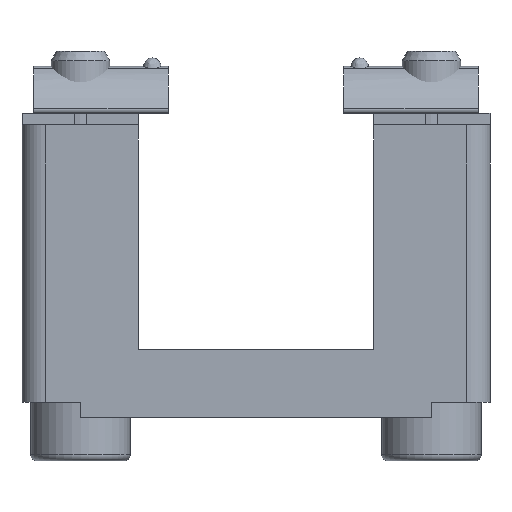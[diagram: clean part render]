
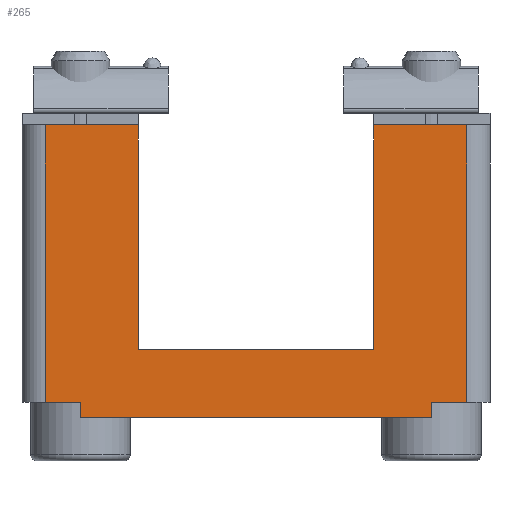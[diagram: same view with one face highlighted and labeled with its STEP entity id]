
A CAD part, front view. The second image highlights one B-rep face of the part: STEP entity #265.
In plain terms, the highlighted planar face has unit normal (0, -1, 0).
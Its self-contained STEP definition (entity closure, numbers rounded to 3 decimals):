
#265=ADVANCED_FACE('',(#493),#494,.T.);
#493=FACE_OUTER_BOUND('',#752,.T.);
#494=PLANE('',#753);
#752=EDGE_LOOP('',(#1234,#1235,#1236,#1237,#1238,#1239,#1240,#1241,#1242,#1243,#1244,#1245));
#753=AXIS2_PLACEMENT_3D('',#1246,#1247,#1248);
#1234=ORIENTED_EDGE('',*,*,#1550,.T.);
#1235=ORIENTED_EDGE('',*,*,#1490,.T.);
#1236=ORIENTED_EDGE('',*,*,#1602,.F.);
#1237=ORIENTED_EDGE('',*,*,#1610,.F.);
#1238=ORIENTED_EDGE('',*,*,#1616,.T.);
#1239=ORIENTED_EDGE('',*,*,#1584,.F.);
#1240=ORIENTED_EDGE('',*,*,#1595,.F.);
#1241=ORIENTED_EDGE('',*,*,#1618,.T.);
#1242=ORIENTED_EDGE('',*,*,#1589,.F.);
#1243=ORIENTED_EDGE('',*,*,#1538,.T.);
#1244=ORIENTED_EDGE('',*,*,#1612,.T.);
#1245=ORIENTED_EDGE('',*,*,#1527,.T.);
#1246=CARTESIAN_POINT('',(-20.0,-6.0,0.0));
#1247=DIRECTION('',(0.0,-1.0,0.0));
#1248=DIRECTION('',(0.0,0.0,-1.0));
#1490=EDGE_CURVE('',#1750,#1754,#1756,.T.);
#1527=EDGE_CURVE('',#1820,#1818,#1821,.T.);
#1538=EDGE_CURVE('',#1838,#1836,#1839,.T.);
#1550=EDGE_CURVE('',#1818,#1750,#1857,.T.);
#1584=EDGE_CURVE('',#1903,#1899,#1905,.T.);
#1589=EDGE_CURVE('',#1838,#1911,#1912,.T.);
#1595=EDGE_CURVE('',#1918,#1903,#1920,.T.);
#1602=EDGE_CURVE('',#1929,#1754,#1930,.T.);
#1610=EDGE_CURVE('',#1940,#1929,#1942,.T.);
#1612=EDGE_CURVE('',#1836,#1820,#1944,.T.);
#1616=EDGE_CURVE('',#1940,#1899,#1948,.T.);
#1618=EDGE_CURVE('',#1918,#1911,#1950,.T.);
#1750=VERTEX_POINT('',#2204);
#1754=VERTEX_POINT('',#2209);
#1756=LINE('',#2211,#2212);
#1818=VERTEX_POINT('',#2300);
#1820=VERTEX_POINT('',#2303);
#1821=LINE('',#2304,#2305);
#1836=VERTEX_POINT('',#2326);
#1838=VERTEX_POINT('',#2329);
#1839=LINE('',#2330,#2331);
#1857=LINE('',#2358,#2359);
#1899=VERTEX_POINT('',#2418);
#1903=VERTEX_POINT('',#2424);
#1905=LINE('',#2427,#2428);
#1911=VERTEX_POINT('',#2436);
#1912=LINE('',#2437,#2438);
#1918=VERTEX_POINT('',#2444);
#1920=LINE('',#2446,#2447);
#1929=VERTEX_POINT('',#2459);
#1930=LINE('',#2460,#2461);
#1940=VERTEX_POINT('',#2473);
#1942=LINE('',#2476,#2477);
#1944=LINE('',#2479,#2480);
#1948=LINE('',#2484,#2485);
#1950=LINE('',#2487,#2488);
#2204=CARTESIAN_POINT('',(-18.0,-6.0,25.0));
#2209=CARTESIAN_POINT('',(-18.0,-6.0,1.3));
#2211=CARTESIAN_POINT('',(-18.0,-6.0,1.3));
#2212=VECTOR('',#2645,1.0);
#2300=CARTESIAN_POINT('',(-10.05,-6.0,25.0));
#2303=CARTESIAN_POINT('',(-10.05,-6.0,5.8));
#2304=CARTESIAN_POINT('',(-10.05,-6.0,26.0));
#2305=VECTOR('',#2682,1.0);
#2326=CARTESIAN_POINT('',(10.05,-6.0,5.8));
#2329=CARTESIAN_POINT('',(10.05,-6.0,25.0));
#2330=CARTESIAN_POINT('',(10.05,-6.0,5.8));
#2331=VECTOR('',#2693,1.0);
#2358=CARTESIAN_POINT('',(-20.0,-6.0,25.0));
#2359=VECTOR('',#2703,1.0);
#2418=CARTESIAN_POINT('',(15.0,-6.0,0.0));
#2424=CARTESIAN_POINT('',(15.0,-6.0,1.3));
#2427=CARTESIAN_POINT('',(15.0,-6.0,0.0));
#2428=VECTOR('',#2736,1.0);
#2436=CARTESIAN_POINT('',(18.0,-6.0,25.0));
#2437=CARTESIAN_POINT('',(-20.0,-6.0,25.0));
#2438=VECTOR('',#2739,1.0);
#2444=CARTESIAN_POINT('',(18.0,-6.0,1.3));
#2446=CARTESIAN_POINT('',(-20.0,-6.0,1.3));
#2447=VECTOR('',#2752,1.0);
#2459=CARTESIAN_POINT('',(-15.0,-6.0,1.3));
#2460=CARTESIAN_POINT('',(-20.0,-6.0,1.3));
#2461=VECTOR('',#2759,1.0);
#2473=CARTESIAN_POINT('',(-15.0,-6.0,0.0));
#2476=CARTESIAN_POINT('',(-15.0,-6.0,0.0));
#2477=VECTOR('',#2772,1.0);
#2479=CARTESIAN_POINT('',(-10.05,-6.0,5.8));
#2480=VECTOR('',#2773,1.0);
#2484=CARTESIAN_POINT('',(-20.0,-6.0,0.0));
#2485=VECTOR('',#2780,1.0);
#2487=CARTESIAN_POINT('',(18.0,-6.0,25.0));
#2488=VECTOR('',#2781,1.0);
#2645=DIRECTION('',(0.0,0.0,-1.0));
#2682=DIRECTION('',(0.0,0.0,1.0));
#2693=DIRECTION('',(0.0,0.0,-1.0));
#2703=DIRECTION('',(-1.0,0.0,0.0));
#2736=DIRECTION('',(0.0,0.0,-1.0));
#2739=DIRECTION('',(1.0,0.0,0.0));
#2752=DIRECTION('',(-1.0,0.0,0.0));
#2759=DIRECTION('',(-1.0,0.0,0.0));
#2772=DIRECTION('',(0.0,0.0,1.0));
#2773=DIRECTION('',(-1.0,0.0,0.0));
#2780=DIRECTION('',(1.0,0.0,0.0));
#2781=DIRECTION('',(0.0,0.0,1.0));
